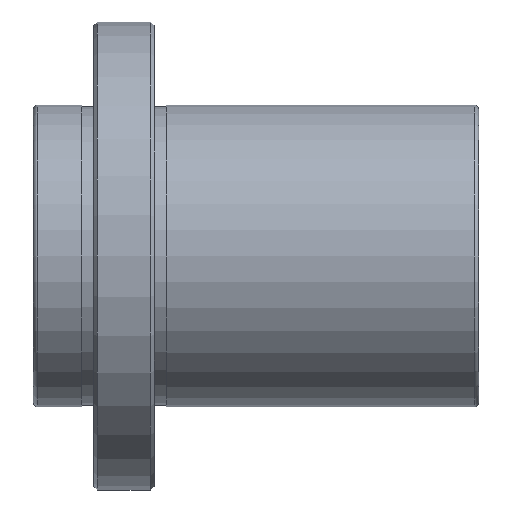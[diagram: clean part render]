
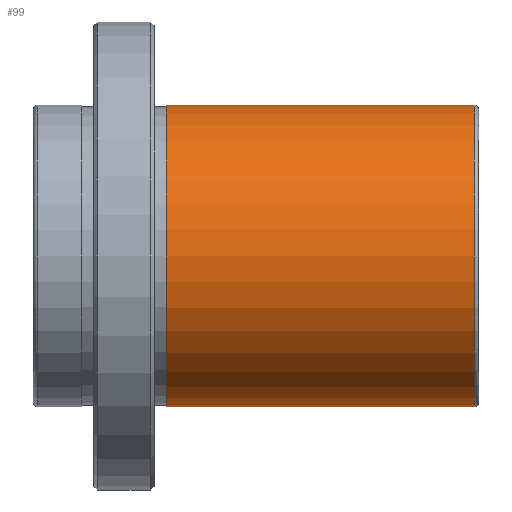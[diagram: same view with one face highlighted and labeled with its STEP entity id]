
A CAD part, front view. The second image highlights one B-rep face of the part: STEP entity #99.
In plain terms, the highlighted cylindrical face has radius 20 mm (diameter 40 mm), a full revolution.
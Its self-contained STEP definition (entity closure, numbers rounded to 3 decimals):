
#99=ADVANCED_FACE('',(#184,#185),#186,.T.);
#184=FACE_OUTER_BOUND('',#276,.T.);
#185=FACE_OUTER_BOUND('',#277,.T.);
#186=CYLINDRICAL_SURFACE('',#278,20.0);
#276=EDGE_LOOP('',(#416));
#277=EDGE_LOOP('',(#417));
#278=AXIS2_PLACEMENT_3D('',#418,#419,#420);
#416=ORIENTED_EDGE('',*,*,#439,.T.);
#417=ORIENTED_EDGE('',*,*,#440,.T.);
#418=CARTESIAN_POINT('',(43.0,0.,0.));
#419=DIRECTION('',(1.0,0.,0.));
#420=DIRECTION('',(0.,-1.0,0.));
#439=EDGE_CURVE('',#474,#474,#475,.T.);
#440=EDGE_CURVE('',#476,#476,#477,.F.);
#474=VERTEX_POINT('',#538);
#475=CIRCLE('',#539,20.0);
#476=VERTEX_POINT('',#540);
#477=CIRCLE('',#541,20.0);
#538=CARTESIAN_POINT('',(1.6,0.,-20.0));
#539=AXIS2_PLACEMENT_3D('',#605,#606,#607);
#540=CARTESIAN_POINT('',(42.4,0.,-20.0));
#541=AXIS2_PLACEMENT_3D('',#608,#609,#610);
#605=CARTESIAN_POINT('',(1.6,0.,0.));
#606=DIRECTION('',(1.0,0.,0.));
#607=DIRECTION('',(0.,0.0,-1.0));
#608=CARTESIAN_POINT('',(42.4,0.,0.));
#609=DIRECTION('',(1.0,0.,0.));
#610=DIRECTION('',(0.,0.0,-1.0));
